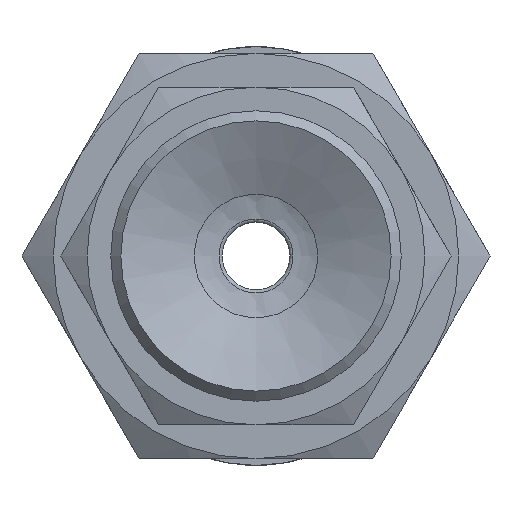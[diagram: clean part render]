
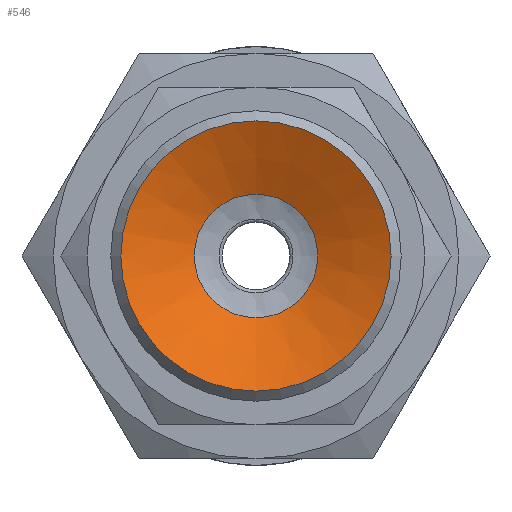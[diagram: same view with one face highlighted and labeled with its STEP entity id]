
A CAD part, front view. The second image highlights one B-rep face of the part: STEP entity #546.
In plain terms, the highlighted conical face has half-angle 65 degrees and reference radius 1.427 mm.
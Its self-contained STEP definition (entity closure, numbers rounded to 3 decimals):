
#546=ADVANCED_FACE('',(#828,#829),#830,.F.);
#828=FACE_BOUND('',#1201,.T.);
#829=FACE_OUTER_BOUND('',#1202,.T.);
#830=CONICAL_SURFACE('',#1203,1.427,1.134);
#1201=EDGE_LOOP('',(#2210));
#1202=EDGE_LOOP('',(#2211));
#1203=AXIS2_PLACEMENT_3D('',#2212,#2213,#2214);
#2210=ORIENTED_EDGE('',*,*,#2733,.T.);
#2211=ORIENTED_EDGE('',*,*,#2723,.T.);
#2212=CARTESIAN_POINT('',(0.0,7.096,0.));
#2213=DIRECTION('',(-0.0,-1.0,0.));
#2214=DIRECTION('',(0.0,0.,-1.0));
#2723=EDGE_CURVE('',#3096,#3096,#3097,.T.);
#2733=EDGE_CURVE('',#3116,#3116,#3117,.T.);
#3096=VERTEX_POINT('',#3890);
#3097=CIRCLE('',#3891,4.0);
#3116=VERTEX_POINT('',#3910);
#3117=CIRCLE('',#3911,1.828);
#3890=CARTESIAN_POINT('',(0.0,5.896,-4.0));
#3891=AXIS2_PLACEMENT_3D('',#4610,#4611,#4612);
#3910=CARTESIAN_POINT('',(0.0,6.909,-1.828));
#3911=AXIS2_PLACEMENT_3D('',#4640,#4641,#4642);
#4610=CARTESIAN_POINT('',(0.0,5.896,0.0));
#4611=DIRECTION('',(0.0,-1.0,0.));
#4612=DIRECTION('',(0.0,0.,-1.0));
#4640=CARTESIAN_POINT('',(0.0,6.909,0.0));
#4641=DIRECTION('',(0.0,1.0,0.));
#4642=DIRECTION('',(0.0,0.,-1.0));
